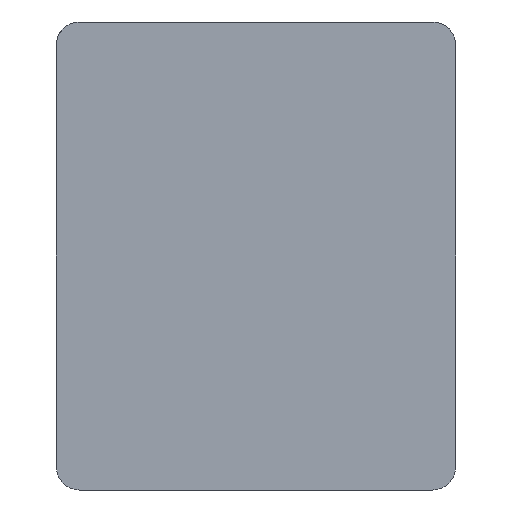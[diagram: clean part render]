
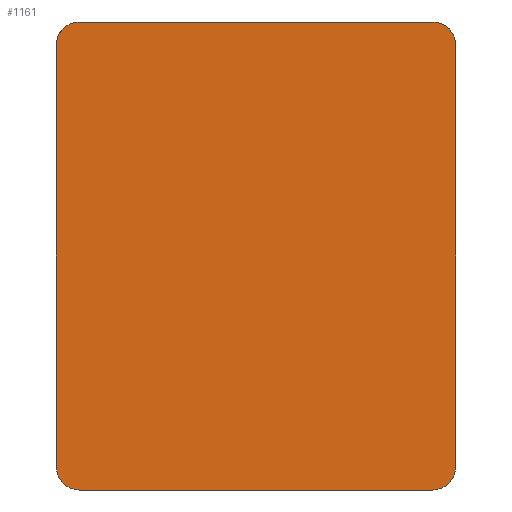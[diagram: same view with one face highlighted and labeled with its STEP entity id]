
A CAD part, front view. The second image highlights one B-rep face of the part: STEP entity #1161.
In plain terms, the highlighted planar face has unit normal (0, -1, 0).
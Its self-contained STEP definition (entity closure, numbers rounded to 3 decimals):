
#53=PLANE('',#1243);
#80=CIRCLE('',#1238,5.);
#82=CIRCLE('',#1242,5.);
#83=CIRCLE('',#1244,5.);
#84=CIRCLE('',#1245,5.);
#138=FACE_OUTER_BOUND('',#205,.T.);
#205=EDGE_LOOP('',(#985,#986,#987,#988,#989,#990,#991,#992));
#277=LINE('',#2332,#364);
#285=LINE('',#2461,#372);
#297=LINE('',#2501,#384);
#298=LINE('',#2503,#385);
#364=VECTOR('',#1382,10.);
#372=VECTOR('',#1400,10.);
#384=VECTOR('',#1436,10.);
#385=VECTOR('',#1439,10.);
#537=VERTEX_POINT('',#2329);
#538=VERTEX_POINT('',#2331);
#550=VERTEX_POINT('',#2458);
#551=VERTEX_POINT('',#2460);
#554=VERTEX_POINT('',#2483);
#556=VERTEX_POINT('',#2494);
#557=VERTEX_POINT('',#2498);
#558=VERTEX_POINT('',#2500);
#680=EDGE_CURVE('',#537,#538,#277,.T.);
#700=EDGE_CURVE('',#550,#551,#285,.T.);
#708=EDGE_CURVE('',#538,#554,#80,.T.);
#716=EDGE_CURVE('',#556,#550,#82,.T.);
#717=EDGE_CURVE('',#557,#537,#83,.T.);
#718=EDGE_CURVE('',#558,#557,#297,.T.);
#719=EDGE_CURVE('',#551,#558,#84,.T.);
#720=EDGE_CURVE('',#556,#554,#298,.T.);
#985=ORIENTED_EDGE('',*,*,#708,.F.);
#986=ORIENTED_EDGE('',*,*,#680,.F.);
#987=ORIENTED_EDGE('',*,*,#717,.F.);
#988=ORIENTED_EDGE('',*,*,#718,.F.);
#989=ORIENTED_EDGE('',*,*,#719,.F.);
#990=ORIENTED_EDGE('',*,*,#700,.F.);
#991=ORIENTED_EDGE('',*,*,#716,.F.);
#992=ORIENTED_EDGE('',*,*,#720,.T.);
#1161=ADVANCED_FACE('',(#138),#53,.F.);
#1238=AXIS2_PLACEMENT_3D('',#2484,#1416,#1417);
#1242=AXIS2_PLACEMENT_3D('',#2496,#1430,#1431);
#1243=AXIS2_PLACEMENT_3D('',#2497,#1432,#1433);
#1244=AXIS2_PLACEMENT_3D('',#2499,#1434,#1435);
#1245=AXIS2_PLACEMENT_3D('',#2502,#1437,#1438);
#1382=DIRECTION('',(0.,0.,-1.));
#1400=DIRECTION('',(0.,0.,1.));
#1416=DIRECTION('center_axis',(0.,1.,0.));
#1417=DIRECTION('ref_axis',(0.707,0.,-0.707));
#1430=DIRECTION('center_axis',(0.,1.,0.));
#1431=DIRECTION('ref_axis',(-0.707,0.,-0.707));
#1432=DIRECTION('center_axis',(0.,1.,0.));
#1433=DIRECTION('ref_axis',(1.,0.,0.));
#1434=DIRECTION('center_axis',(0.,1.,0.));
#1435=DIRECTION('ref_axis',(0.707,0.,0.707));
#1436=DIRECTION('',(1.,0.,0.));
#1437=DIRECTION('center_axis',(0.,1.,0.));
#1438=DIRECTION('ref_axis',(-0.707,0.,0.707));
#1439=DIRECTION('',(1.,0.,0.));
#2329=CARTESIAN_POINT('',(43.5,0.,38.5));
#2331=CARTESIAN_POINT('',(43.5,0.,-53.5));
#2332=CARTESIAN_POINT('',(43.5,0.,43.5));
#2458=CARTESIAN_POINT('',(-43.5,0.,-53.5));
#2460=CARTESIAN_POINT('',(-43.5,0.,38.5));
#2461=CARTESIAN_POINT('',(-43.5,0.,-58.5));
#2483=CARTESIAN_POINT('',(38.5,0.,-58.5));
#2484=CARTESIAN_POINT('Origin',(38.5,0.,-53.5));
#2494=CARTESIAN_POINT('',(-38.5,0.,-58.5));
#2496=CARTESIAN_POINT('Origin',(-38.5,0.,-53.5));
#2497=CARTESIAN_POINT('Origin',(0.,0.,-7.5));
#2498=CARTESIAN_POINT('',(38.5,0.,43.5));
#2499=CARTESIAN_POINT('Origin',(38.5,0.,38.5));
#2500=CARTESIAN_POINT('',(-38.5,0.,43.5));
#2501=CARTESIAN_POINT('',(-43.5,0.,43.5));
#2502=CARTESIAN_POINT('Origin',(-38.5,0.,38.5));
#2503=CARTESIAN_POINT('',(-43.5,0.,-58.5));
